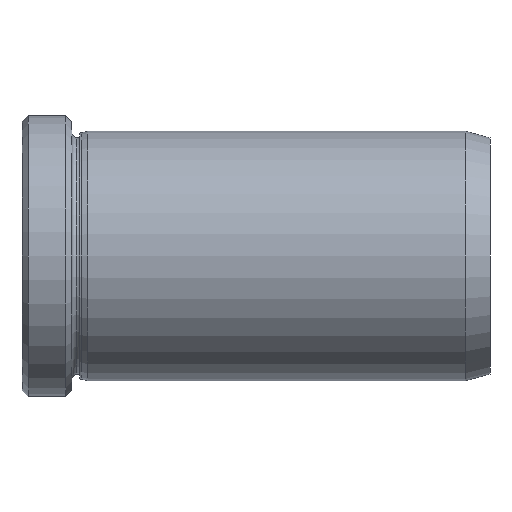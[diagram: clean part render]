
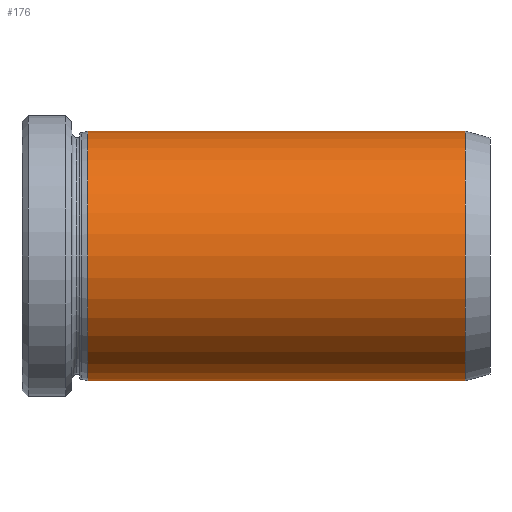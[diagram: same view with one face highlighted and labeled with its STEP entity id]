
A CAD part, front view. The second image highlights one B-rep face of the part: STEP entity #176.
In plain terms, the highlighted cylindrical face has radius 20 mm (diameter 40 mm), a partial arc.
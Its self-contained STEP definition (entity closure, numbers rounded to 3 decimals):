
#8 = ORIENTED_EDGE ( 'NONE', *, *, #661, .T. ) ;
#13 = DIRECTION ( 'NONE',  ( 0., 0., 1. ) ) ;
#19 = CIRCLE ( 'NONE', #809, 20. ) ;
#67 = VERTEX_POINT ( 'NONE', #234 ) ;
#94 = DIRECTION ( 'NONE',  ( 0., 0., 1. ) ) ;
#96 = VERTEX_POINT ( 'NONE', #447 ) ;
#123 = CARTESIAN_POINT ( 'NONE',  ( 91.91, 0., -20. ) ) ;
#126 = DIRECTION ( 'NONE',  ( -1., 0., 0. ) ) ;
#153 = DIRECTION ( 'NONE',  ( -1., 0., 0. ) ) ;
#169 = DIRECTION ( 'NONE',  ( -1., 0., 0. ) ) ;
#176 = ADVANCED_FACE ( 'NONE', ( #631 ), #785, .T. ) ;
#180 = LINE ( 'NONE', #360, #880 ) ;
#234 = CARTESIAN_POINT ( 'NONE',  ( 91.91, 0., 20. ) ) ;
#313 = AXIS2_PLACEMENT_3D ( 'NONE', #663, #169, #94 ) ;
#327 = EDGE_CURVE ( 'NONE', #67, #96, #180, .T. ) ;
#330 = LINE ( 'NONE', #571, #850 ) ;
#346 = DIRECTION ( 'NONE',  ( 0., 0., 1. ) ) ;
#353 = CARTESIAN_POINT ( 'NONE',  ( 31.41, 0., 0. ) ) ;
#360 = CARTESIAN_POINT ( 'NONE',  ( 0., 0., 20. ) ) ;
#423 = DIRECTION ( 'NONE',  ( -1., 0., 0. ) ) ;
#434 = CARTESIAN_POINT ( 'NONE',  ( 31.41, 0., -20. ) ) ;
#444 = ORIENTED_EDGE ( 'NONE', *, *, #327, .T. ) ;
#447 = CARTESIAN_POINT ( 'NONE',  ( 31.41, 0., 20. ) ) ;
#451 = AXIS2_PLACEMENT_3D ( 'NONE', #353, #479, #346 ) ;
#479 = DIRECTION ( 'NONE',  ( -1., 0., 0. ) ) ;
#498 = CIRCLE ( 'NONE', #451, 20. ) ;
#571 = CARTESIAN_POINT ( 'NONE',  ( 0., 0., -20. ) ) ;
#631 = FACE_OUTER_BOUND ( 'NONE', #654, .T. ) ;
#654 = EDGE_LOOP ( 'NONE', ( #685, #8, #444, #802 ) ) ;
#661 = EDGE_CURVE ( 'NONE', #882, #67, #19, .T. ) ;
#663 = CARTESIAN_POINT ( 'NONE',  ( 0., 0., 0. ) ) ;
#685 = ORIENTED_EDGE ( 'NONE', *, *, #725, .F. ) ;
#725 = EDGE_CURVE ( 'NONE', #882, #788, #330, .T. ) ;
#785 = CYLINDRICAL_SURFACE ( 'NONE', #313, 20. ) ;
#788 = VERTEX_POINT ( 'NONE', #434 ) ;
#802 = ORIENTED_EDGE ( 'NONE', *, *, #808, .F. ) ;
#808 = EDGE_CURVE ( 'NONE', #788, #96, #498, .T. ) ;
#809 = AXIS2_PLACEMENT_3D ( 'NONE', #843, #423, #13 ) ;
#843 = CARTESIAN_POINT ( 'NONE',  ( 91.91, 0., 0. ) ) ;
#850 = VECTOR ( 'NONE', #126, 1000. ) ;
#880 = VECTOR ( 'NONE', #153, 1000. ) ;
#882 = VERTEX_POINT ( 'NONE', #123 ) ;
